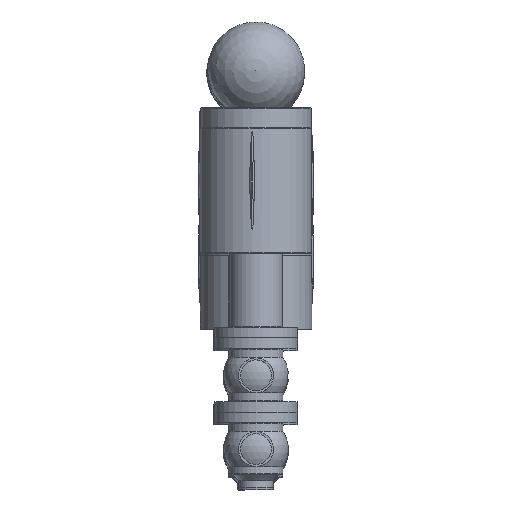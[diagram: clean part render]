
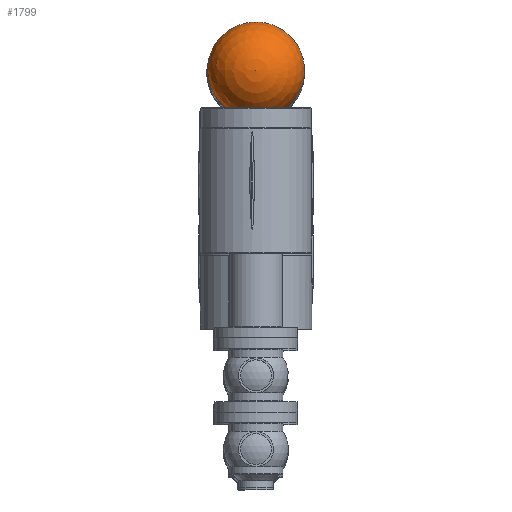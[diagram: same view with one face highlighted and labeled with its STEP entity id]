
A CAD part, front view. The second image highlights one B-rep face of the part: STEP entity #1799.
In plain terms, the highlighted spherical face has radius 72.5 mm.
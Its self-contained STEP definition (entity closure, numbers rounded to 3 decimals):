
#218=SPHERICAL_SURFACE('',#2174,72.5);
#242=FACE_BOUND('',#482,.T.);
#356=FACE_OUTER_BOUND('',#481,.T.);
#481=EDGE_LOOP('',(#1536,#1537));
#482=EDGE_LOOP('',(#1538));
#724=CIRCLE('',#2175,72.5);
#725=CIRCLE('',#2176,46.648);
#901=VERTEX_POINT('',#3619);
#902=VERTEX_POINT('',#3620);
#903=VERTEX_POINT('',#3622);
#1126=EDGE_CURVE('',#901,#902,#724,.T.);
#1127=EDGE_CURVE('',#903,#903,#725,.T.);
#1536=ORIENTED_EDGE('',*,*,#1126,.T.);
#1537=ORIENTED_EDGE('',*,*,#1126,.F.);
#1538=ORIENTED_EDGE('',*,*,#1127,.F.);
#1799=ADVANCED_FACE('',(#356,#242),#218,.T.);
#2174=AXIS2_PLACEMENT_3D('',#3618,#2694,#2695);
#2175=AXIS2_PLACEMENT_3D('',#3621,#2696,#2697);
#2176=AXIS2_PLACEMENT_3D('',#3623,#2698,#2699);
#2694=DIRECTION('center_axis',(0.,0.,1.));
#2695=DIRECTION('ref_axis',(1.,0.,0.));
#2696=DIRECTION('center_axis',(0.,-1.,0.));
#2697=DIRECTION('ref_axis',(-1.,0.,0.));
#2698=DIRECTION('center_axis',(0.,-1.,0.));
#2699=DIRECTION('ref_axis',(1.,0.,0.));
#3618=CARTESIAN_POINT('Origin',(150.,266.5,0.));
#3619=CARTESIAN_POINT('',(150.,266.5,72.5));
#3620=CARTESIAN_POINT('',(150.,266.5,-72.5));
#3621=CARTESIAN_POINT('Origin',(150.,266.5,0.));
#3622=CARTESIAN_POINT('',(196.648,211.,0.));
#3623=CARTESIAN_POINT('Origin',(150.,211.,0.));
